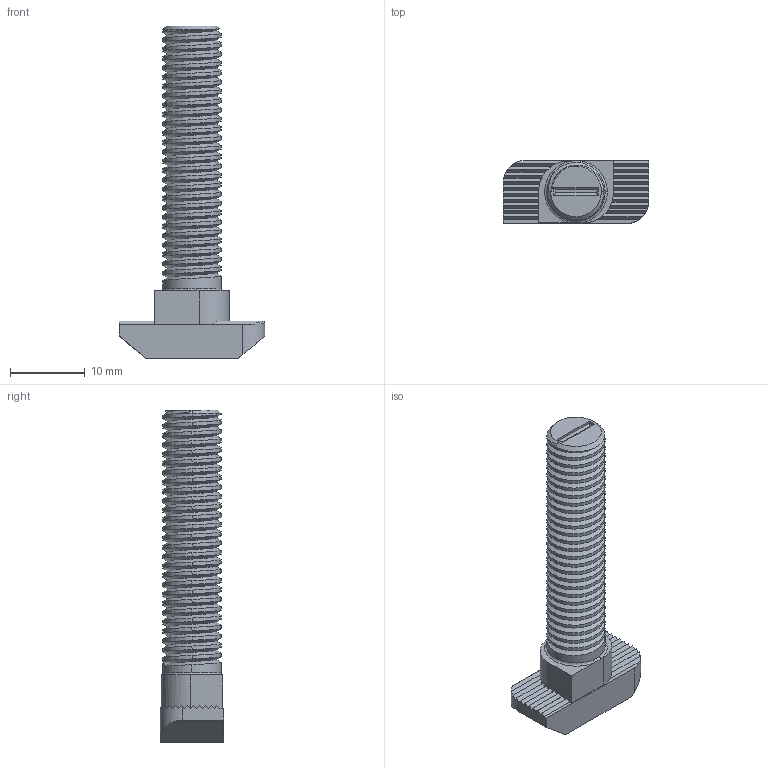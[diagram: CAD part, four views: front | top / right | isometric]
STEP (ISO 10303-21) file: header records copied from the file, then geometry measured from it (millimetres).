
FILE_DESCRIPTION (( 'STEP AP203' ), '1' );
FILE_NAME ('5033.STEP', '2016-01-21T10:33:02', ( '' ), ( '' ), 'SwSTEP 2.0', 'SolidWorks 2014', '' );
FILE_SCHEMA (( 'CONFIG_CONTROL_DESIGN' ));
Length unit declared in the file: millimetre
Products named in the file (1): 5033
Bounding box: 19.5 x 8.5 x 44.5 mm (x, y, z)
Volume: 2538.8 mm3; surface area: 1996 mm2
Topology: 1 solids, 1 shells, 134 faces, 380 edges, 249 vertices
Faces by surface type: cylinder 63, plane 61, bspline 4, torus 3, cone 3
Entity records: 7241 total; most frequent: CARTESIAN_POINT 4155, ORIENTED_EDGE 760, DIRECTION 502, EDGE_CURVE 380, VERTEX_POINT 249, VECTOR 200, LINE 200, AXIS2_PLACEMENT_3D 151
